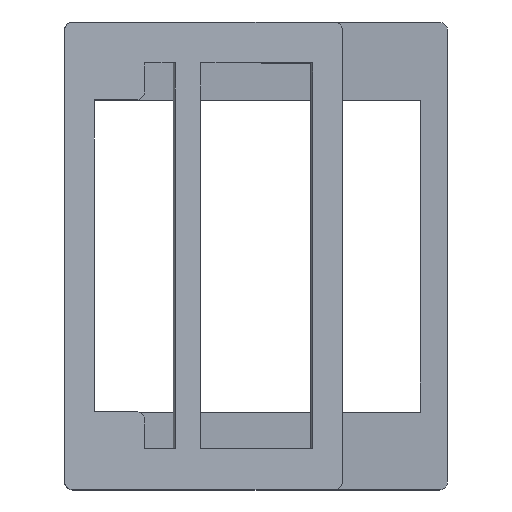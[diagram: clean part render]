
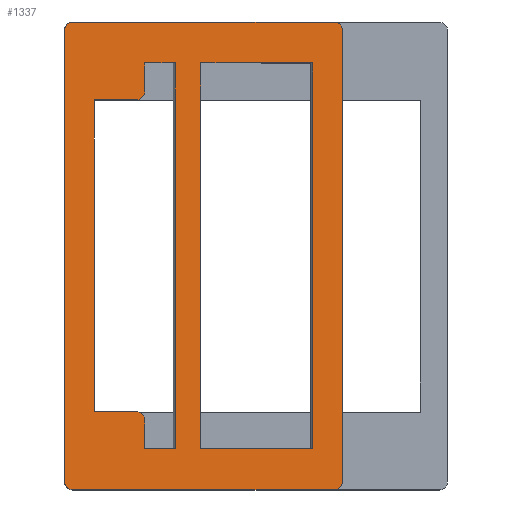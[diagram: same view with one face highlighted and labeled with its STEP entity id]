
A CAD part, top view. The second image highlights one B-rep face of the part: STEP entity #1337.
In plain terms, the highlighted planar face has unit normal (0.134, 0, 0.991).
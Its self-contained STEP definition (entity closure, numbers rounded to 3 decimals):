
#23=CIRCLE('',#1424,3.);
#26=CIRCLE('',#1434,3.);
#44=FACE_BOUND('',#173,.T.);
#45=FACE_BOUND('',#174,.T.);
#56=PLANE('',#1429);
#107=FACE_OUTER_BOUND('',#172,.T.);
#172=EDGE_LOOP('',(#959,#960,#961,#962,#963,#964,#965,#966));
#173=EDGE_LOOP('',(#967,#968,#969,#970,#971,#972,#973,#974,#975,#976));
#174=EDGE_LOOP('',(#977,#978,#979,#980));
#243=LINE('',#1910,#403);
#263=LINE('',#1974,#423);
#265=LINE('',#1981,#425);
#266=LINE('',#1986,#426);
#267=LINE('',#1989,#427);
#268=LINE('',#1991,#428);
#269=LINE('',#1993,#429);
#270=LINE('',#1995,#430);
#271=LINE('',#1999,#431);
#272=LINE('',#2001,#432);
#273=LINE('',#2003,#433);
#274=LINE('',#2004,#434);
#275=LINE('',#2007,#435);
#276=LINE('',#2009,#436);
#277=LINE('',#2011,#437);
#278=LINE('',#2012,#438);
#403=VECTOR('',#1529,10.);
#423=VECTOR('',#1589,10.);
#425=VECTOR('',#1595,10.);
#426=VECTOR('',#1600,10.);
#427=VECTOR('',#1603,10.);
#428=VECTOR('',#1604,10.);
#429=VECTOR('',#1605,10.);
#430=VECTOR('',#1606,10.);
#431=VECTOR('',#1609,10.);
#432=VECTOR('',#1610,10.);
#433=VECTOR('',#1611,10.);
#434=VECTOR('',#1612,10.);
#435=VECTOR('',#1613,10.);
#436=VECTOR('',#1614,10.);
#437=VECTOR('',#1615,10.);
#438=VECTOR('',#1616,10.);
#560=ELLIPSE('',#1430,3.027,3.);
#561=ELLIPSE('',#1431,3.027,3.);
#562=ELLIPSE('',#1432,3.027,3.);
#563=ELLIPSE('',#1433,3.027,3.);
#581=VERTEX_POINT('',#1907);
#582=VERTEX_POINT('',#1909);
#602=VERTEX_POINT('',#1961);
#603=VERTEX_POINT('',#1962);
#606=VERTEX_POINT('',#1973);
#607=VERTEX_POINT('',#1977);
#608=VERTEX_POINT('',#1978);
#609=VERTEX_POINT('',#1980);
#610=VERTEX_POINT('',#1983);
#611=VERTEX_POINT('',#1985);
#612=VERTEX_POINT('',#1987);
#613=VERTEX_POINT('',#1990);
#614=VERTEX_POINT('',#1992);
#615=VERTEX_POINT('',#1994);
#616=VERTEX_POINT('',#1996);
#617=VERTEX_POINT('',#1998);
#618=VERTEX_POINT('',#2000);
#619=VERTEX_POINT('',#2002);
#620=VERTEX_POINT('',#2005);
#621=VERTEX_POINT('',#2006);
#622=VERTEX_POINT('',#2008);
#623=VERTEX_POINT('',#2010);
#713=EDGE_CURVE('',#581,#582,#243,.T.);
#739=EDGE_CURVE('',#602,#603,#23,.T.);
#745=EDGE_CURVE('',#606,#603,#263,.T.);
#747=EDGE_CURVE('',#607,#608,#560,.T.);
#748=EDGE_CURVE('',#607,#609,#265,.T.);
#749=EDGE_CURVE('',#582,#609,#561,.T.);
#750=EDGE_CURVE('',#610,#581,#562,.T.);
#751=EDGE_CURVE('',#610,#611,#266,.T.);
#752=EDGE_CURVE('',#612,#611,#563,.T.);
#753=EDGE_CURVE('',#608,#612,#267,.T.);
#754=EDGE_CURVE('',#602,#613,#268,.T.);
#755=EDGE_CURVE('',#613,#614,#269,.T.);
#756=EDGE_CURVE('',#614,#615,#270,.T.);
#757=EDGE_CURVE('',#616,#615,#26,.T.);
#758=EDGE_CURVE('',#616,#617,#271,.T.);
#759=EDGE_CURVE('',#617,#618,#272,.T.);
#760=EDGE_CURVE('',#618,#619,#273,.T.);
#761=EDGE_CURVE('',#619,#606,#274,.T.);
#762=EDGE_CURVE('',#620,#621,#275,.T.);
#763=EDGE_CURVE('',#621,#622,#276,.T.);
#764=EDGE_CURVE('',#622,#623,#277,.T.);
#765=EDGE_CURVE('',#623,#620,#278,.T.);
#959=ORIENTED_EDGE('',*,*,#747,.F.);
#960=ORIENTED_EDGE('',*,*,#748,.T.);
#961=ORIENTED_EDGE('',*,*,#749,.F.);
#962=ORIENTED_EDGE('',*,*,#713,.F.);
#963=ORIENTED_EDGE('',*,*,#750,.F.);
#964=ORIENTED_EDGE('',*,*,#751,.T.);
#965=ORIENTED_EDGE('',*,*,#752,.F.);
#966=ORIENTED_EDGE('',*,*,#753,.F.);
#967=ORIENTED_EDGE('',*,*,#739,.F.);
#968=ORIENTED_EDGE('',*,*,#754,.T.);
#969=ORIENTED_EDGE('',*,*,#755,.T.);
#970=ORIENTED_EDGE('',*,*,#756,.T.);
#971=ORIENTED_EDGE('',*,*,#757,.F.);
#972=ORIENTED_EDGE('',*,*,#758,.T.);
#973=ORIENTED_EDGE('',*,*,#759,.T.);
#974=ORIENTED_EDGE('',*,*,#760,.T.);
#975=ORIENTED_EDGE('',*,*,#761,.T.);
#976=ORIENTED_EDGE('',*,*,#745,.T.);
#977=ORIENTED_EDGE('',*,*,#762,.T.);
#978=ORIENTED_EDGE('',*,*,#763,.T.);
#979=ORIENTED_EDGE('',*,*,#764,.T.);
#980=ORIENTED_EDGE('',*,*,#765,.T.);
#1337=ADVANCED_FACE('',(#107,#44,#45),#56,.T.);
#1424=AXIS2_PLACEMENT_3D('',#1963,#1576,#1577);
#1429=AXIS2_PLACEMENT_3D('',#1976,#1591,#1592);
#1430=AXIS2_PLACEMENT_3D('',#1979,#1593,#1594);
#1431=AXIS2_PLACEMENT_3D('',#1982,#1596,#1597);
#1432=AXIS2_PLACEMENT_3D('',#1984,#1598,#1599);
#1433=AXIS2_PLACEMENT_3D('',#1988,#1601,#1602);
#1434=AXIS2_PLACEMENT_3D('',#1997,#1607,#1608);
#1529=DIRECTION('',(0.991,0.,-0.134));
#1576=DIRECTION('center_axis',(-0.134,0.,-0.991));
#1577=DIRECTION('ref_axis',(0.701,0.707,-0.095));
#1589=DIRECTION('',(0.,1.,0.));
#1591=DIRECTION('center_axis',(0.134,0.,0.991));
#1592=DIRECTION('ref_axis',(0.991,0.,-0.134));
#1593=DIRECTION('center_axis',(-0.134,0.,-0.991));
#1594=DIRECTION('ref_axis',(0.991,0.,-0.134));
#1595=DIRECTION('',(0.,1.,0.));
#1596=DIRECTION('center_axis',(-0.134,0.,-0.991));
#1597=DIRECTION('ref_axis',(0.991,0.,-0.134));
#1598=DIRECTION('center_axis',(-0.134,0.,-0.991));
#1599=DIRECTION('ref_axis',(-0.991,0.,0.134));
#1600=DIRECTION('',(0.,-1.,0.));
#1601=DIRECTION('center_axis',(-0.134,0.,-0.991));
#1602=DIRECTION('ref_axis',(-0.991,0.,0.134));
#1603=DIRECTION('',(-0.991,0.,0.134));
#1604=DIRECTION('',(-0.991,0.,0.134));
#1605=DIRECTION('',(0.,1.,0.));
#1606=DIRECTION('',(0.991,0.,-0.134));
#1607=DIRECTION('center_axis',(-0.134,0.,-0.991));
#1608=DIRECTION('ref_axis',(0.701,-0.707,-0.095));
#1609=DIRECTION('',(0.,1.,0.));
#1610=DIRECTION('',(0.991,0.,-0.134));
#1611=DIRECTION('',(0.,-1.,0.));
#1612=DIRECTION('',(-0.991,0.,0.134));
#1613=DIRECTION('',(0.991,0.,-0.134));
#1614=DIRECTION('',(0.,-1.,0.));
#1615=DIRECTION('',(-0.991,0.,0.134));
#1616=DIRECTION('',(0.,1.,0.));
#1907=CARTESIAN_POINT('',(3.,171.375,86.143));
#1909=CARTESIAN_POINT('',(98.825,171.375,73.157));
#1910=CARTESIAN_POINT('',(106.328,171.375,72.14));
#1961=CARTESIAN_POINT('',(26.382,28.549,82.975));
#1962=CARTESIAN_POINT('',(29.355,25.549,82.572));
#1963=CARTESIAN_POINT('Origin',(26.382,25.549,82.975));
#1973=CARTESIAN_POINT('',(29.355,15.,82.572));
#1974=CARTESIAN_POINT('',(29.355,42.844,82.572));
#1976=CARTESIAN_POINT('Origin',(0.,0.,86.55));
#1977=CARTESIAN_POINT('',(101.825,3.,72.75));
#1978=CARTESIAN_POINT('',(98.825,0.,73.157));
#1979=CARTESIAN_POINT('Origin',(98.825,3.,73.157));
#1980=CARTESIAN_POINT('',(101.825,168.375,72.75));
#1981=CARTESIAN_POINT('',(101.825,0.,72.75));
#1982=CARTESIAN_POINT('Origin',(98.825,168.375,73.157));
#1983=CARTESIAN_POINT('',(0.,168.375,86.55));
#1984=CARTESIAN_POINT('Origin',(3.,168.375,86.143));
#1985=CARTESIAN_POINT('',(0.,3.,86.55));
#1986=CARTESIAN_POINT('',(0.,142.826,86.55));
#1987=CARTESIAN_POINT('',(3.,0.,86.143));
#1988=CARTESIAN_POINT('Origin',(3.,3.,86.143));
#1989=CARTESIAN_POINT('',(37.407,0.,81.48));
#1990=CARTESIAN_POINT('',(10.9,28.549,85.073));
#1991=CARTESIAN_POINT('',(82.244,28.549,75.404));
#1992=CARTESIAN_POINT('',(10.9,142.826,85.073));
#1993=CARTESIAN_POINT('',(10.9,7.5,85.073));
#1994=CARTESIAN_POINT('',(26.382,142.826,82.975));
#1995=CARTESIAN_POINT('',(23.142,142.826,83.414));
#1996=CARTESIAN_POINT('',(29.355,145.826,82.572));
#1997=CARTESIAN_POINT('Origin',(26.382,145.826,82.975));
#1998=CARTESIAN_POINT('',(29.355,156.375,82.572));
#1999=CARTESIAN_POINT('',(29.355,114.257,82.572));
#2000=CARTESIAN_POINT('',(40.629,156.375,81.044));
#2001=CARTESIAN_POINT('',(5.45,156.375,85.811));
#2002=CARTESIAN_POINT('',(40.629,15.,81.044));
#2003=CARTESIAN_POINT('',(40.629,78.188,81.044));
#2004=CARTESIAN_POINT('',(20.314,15.,83.797));
#2005=CARTESIAN_POINT('',(49.999,156.375,79.774));
#2006=CARTESIAN_POINT('',(90.925,156.375,74.227));
#2007=CARTESIAN_POINT('',(24.999,156.375,83.162));
#2008=CARTESIAN_POINT('',(90.925,15.,74.227));
#2009=CARTESIAN_POINT('',(90.925,78.188,74.227));
#2010=CARTESIAN_POINT('',(49.999,15.,79.774));
#2011=CARTESIAN_POINT('',(45.462,15.,80.389));
#2012=CARTESIAN_POINT('',(49.999,7.5,79.774));
